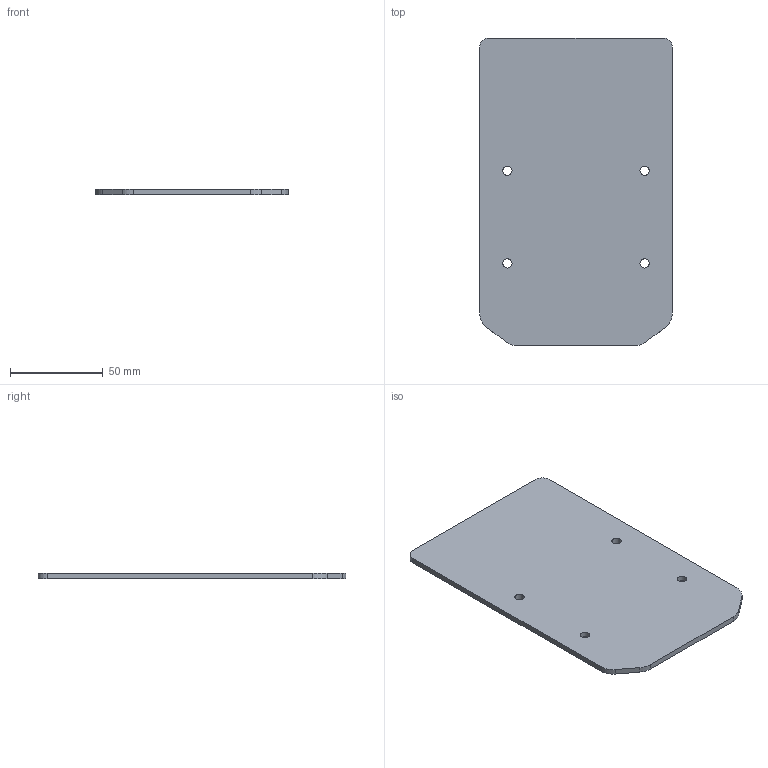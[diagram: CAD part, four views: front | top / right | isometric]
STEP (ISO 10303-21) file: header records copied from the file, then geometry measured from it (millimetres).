
FILE_DESCRIPTION(('Open CASCADE Model'),'2;1');
FILE_NAME('Open CASCADE Shape Model','2026-10-01T15:23:51',('Author'),( 'Open CASCADE'),'Open CASCADE STEP processor 7.9','Open CASCADE 7.9' ,'Unknown');
FILE_SCHEMA(('AUTOMOTIVE_DESIGN { 1 0 10303 214 1 1 1 1 }'));
Length unit declared in the file: millimetre
Products named in the file (1): Open CASCADE STEP translator 7.9 11
Bounding box: 104 x 166 x 3 mm (x, y, z)
Volume: 50832.8 mm3; surface area: 35626.9 mm2
Topology: 1 solids, 1 shells, 18 faces, 48 edges, 32 vertices
Faces by surface type: cylinder 10, plane 8
Full cylindrical faces by diameter (mm): 5 x4
Entity records: 1246 total; most frequent: CARTESIAN_POINT 243, DIRECTION 194, LINE 104, VECTOR 104, ORIENTED_EDGE 96, PCURVE 96, DEFINITIONAL_REPRESENTATION 96, EDGE_CURVE 48
